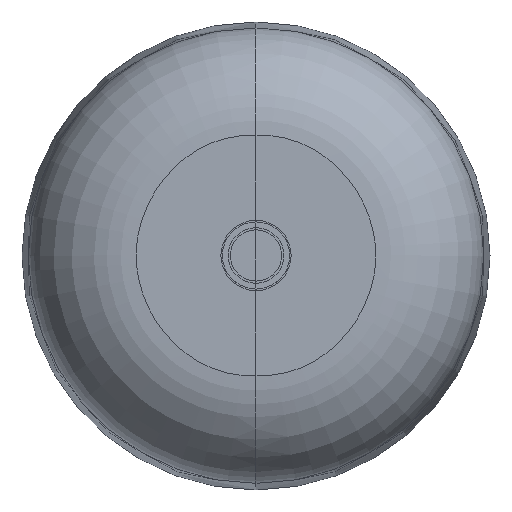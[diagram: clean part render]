
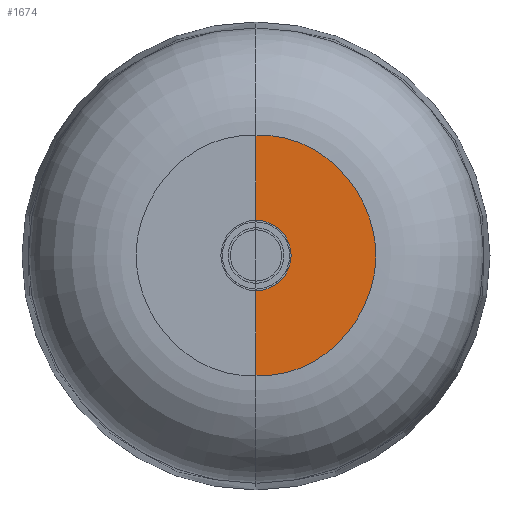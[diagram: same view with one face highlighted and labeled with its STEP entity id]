
A CAD part, top view. The second image highlights one B-rep face of the part: STEP entity #1674.
In plain terms, the highlighted planar face has unit normal (0, 0, 1).
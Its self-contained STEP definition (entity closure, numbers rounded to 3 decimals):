
#127=CIRCLE('',#1827,6.033);
#131=CIRCLE('',#1832,6.033);
#220=PLANE('',#1865);
#321=FACE_OUTER_BOUND('',#426,.T.);
#426=EDGE_LOOP('',(#1549,#1550,#1551,#1552,#1553));
#520=LINE('',#3961,#615);
#521=LINE('',#3962,#616);
#615=VECTOR('',#2325,304.8);
#616=VECTOR('',#2326,304.8);
#684=B_SPLINE_CURVE_WITH_KNOTS('',3,(#3745,#3746,#3747,#3748,#3749,#3750,
#3751),.UNSPECIFIED.,.F.,.F.,(4,1,1,1,4),(0.,0.25,0.5,0.75,1.),
 .UNSPECIFIED.);
#816=VERTEX_POINT('',#3672);
#817=VERTEX_POINT('',#3674);
#819=VERTEX_POINT('',#3681);
#840=VERTEX_POINT('',#3743);
#841=VERTEX_POINT('',#3744);
#1044=EDGE_CURVE('',#817,#816,#127,.T.);
#1049=EDGE_CURVE('',#816,#819,#131,.T.);
#1078=EDGE_CURVE('',#840,#841,#684,.T.);
#1082=EDGE_CURVE('',#817,#841,#520,.T.);
#1083=EDGE_CURVE('',#840,#819,#521,.T.);
#1549=ORIENTED_EDGE('',*,*,#1078,.T.);
#1550=ORIENTED_EDGE('',*,*,#1082,.F.);
#1551=ORIENTED_EDGE('',*,*,#1044,.T.);
#1552=ORIENTED_EDGE('',*,*,#1049,.T.);
#1553=ORIENTED_EDGE('',*,*,#1083,.F.);
#1674=ADVANCED_FACE('',(#321),#220,.F.);
#1827=AXIS2_PLACEMENT_3D('',#3675,#2238,#2239);
#1832=AXIS2_PLACEMENT_3D('',#3683,#2249,#2250);
#1865=AXIS2_PLACEMENT_3D('',#3960,#2323,#2324);
#2238=DIRECTION('center_axis',(0.,0.,-1.));
#2239=DIRECTION('ref_axis',(1.,0.,0.));
#2249=DIRECTION('center_axis',(0.,0.,-1.));
#2250=DIRECTION('ref_axis',(1.,0.,0.));
#2323=DIRECTION('center_axis',(0.,0.,-1.));
#2324=DIRECTION('ref_axis',(0.,-1.,0.));
#2325=DIRECTION('',(0.,1.,0.));
#2326=DIRECTION('',(0.,1.,0.));
#3672=CARTESIAN_POINT('',(6.033,0.,201.97));
#3674=CARTESIAN_POINT('',(0.,6.033,201.97));
#3675=CARTESIAN_POINT('Origin',(0.,0.,
201.97));
#3681=CARTESIAN_POINT('',(0.,-6.033,201.97));
#3683=CARTESIAN_POINT('Origin',(0.,0.,
201.97));
#3743=CARTESIAN_POINT('',(0.,-20.605,201.97));
#3744=CARTESIAN_POINT('',(0.,20.605,201.97));
#3745=CARTESIAN_POINT('Ctrl Pts',(0.,-20.605,
201.97));
#3746=CARTESIAN_POINT('Ctrl Pts',(5.69,-20.964,201.97));
#3747=CARTESIAN_POINT('Ctrl Pts',(15.992,-15.992,201.97));
#3748=CARTESIAN_POINT('Ctrl Pts',(22.911,0.,
201.97));
#3749=CARTESIAN_POINT('Ctrl Pts',(15.992,15.992,201.97));
#3750=CARTESIAN_POINT('Ctrl Pts',(5.69,20.964,201.97));
#3751=CARTESIAN_POINT('Ctrl Pts',(0.,20.605,
201.97));
#3960=CARTESIAN_POINT('Origin',(0.,0.,201.97));
#3961=CARTESIAN_POINT('',(0.,6.033,201.97));
#3962=CARTESIAN_POINT('',(0.,-20.605,201.97));
